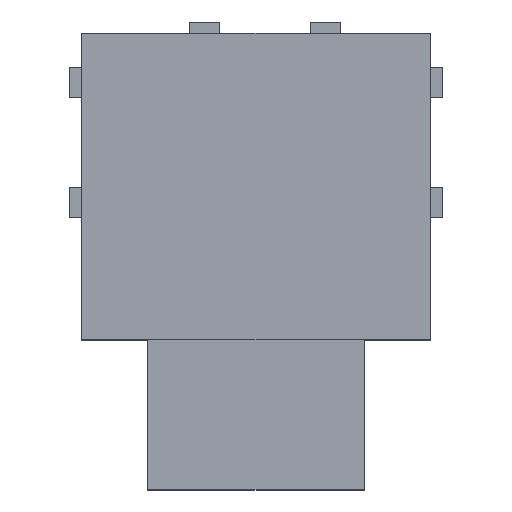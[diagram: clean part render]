
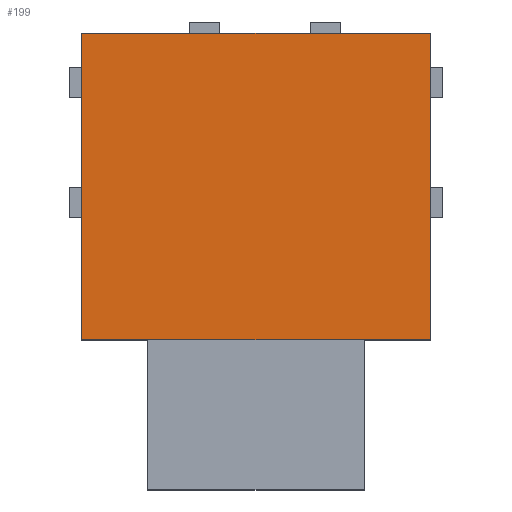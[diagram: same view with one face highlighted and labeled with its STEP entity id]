
A CAD part, top view. The second image highlights one B-rep face of the part: STEP entity #199.
In plain terms, the highlighted planar face has unit normal (0, 0, 1).
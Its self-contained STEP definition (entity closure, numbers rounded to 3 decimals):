
#70 = VERTEX_POINT('',#71);
#71 = CARTESIAN_POINT('',(-2.9,5.1,5.8));
#77 = EDGE_CURVE('',#70,#78,#80,.T.);
#78 = VERTEX_POINT('',#79);
#79 = CARTESIAN_POINT('',(-2.9,0.,5.8));
#80 = LINE('',#81,#82);
#81 = CARTESIAN_POINT('',(-2.9,5.1,5.8));
#82 = VECTOR('',#83,1.);
#83 = DIRECTION('',(0.,-1.,0.));
#108 = EDGE_CURVE('',#78,#109,#111,.T.);
#109 = VERTEX_POINT('',#110);
#110 = CARTESIAN_POINT('',(2.9,0.,5.8));
#111 = LINE('',#112,#113);
#112 = CARTESIAN_POINT('',(-2.9,0.,5.8));
#113 = VECTOR('',#114,1.);
#114 = DIRECTION('',(1.,0.,0.));
#139 = EDGE_CURVE('',#109,#140,#142,.T.);
#140 = VERTEX_POINT('',#141);
#141 = CARTESIAN_POINT('',(2.9,5.1,5.8));
#142 = LINE('',#143,#144);
#143 = CARTESIAN_POINT('',(2.9,0.,5.8));
#144 = VECTOR('',#145,1.);
#145 = DIRECTION('',(0.,1.,0.));
#170 = EDGE_CURVE('',#140,#70,#171,.T.);
#171 = LINE('',#172,#173);
#172 = CARTESIAN_POINT('',(2.9,5.1,5.8));
#173 = VECTOR('',#174,1.);
#174 = DIRECTION('',(-1.,0.,0.));
#199 = ADVANCED_FACE('',(#200),#206,.T.);
#200 = FACE_BOUND('',#201,.T.);
#201 = EDGE_LOOP('',(#202,#203,#204,#205));
#202 = ORIENTED_EDGE('',*,*,#77,.T.);
#203 = ORIENTED_EDGE('',*,*,#108,.T.);
#204 = ORIENTED_EDGE('',*,*,#139,.T.);
#205 = ORIENTED_EDGE('',*,*,#170,.T.);
#206 = PLANE('',#207);
#207 = AXIS2_PLACEMENT_3D('',#208,#209,#210);
#208 = CARTESIAN_POINT('',(0.,2.55,5.8));
#209 = DIRECTION('',(0.,0.,1.));
#210 = DIRECTION('',(1.,0.,0.));
